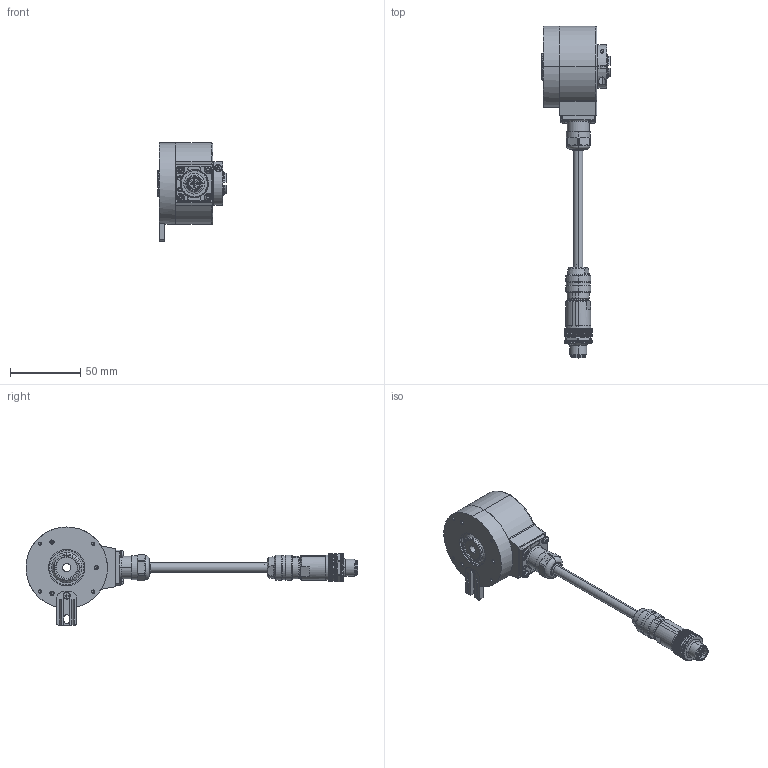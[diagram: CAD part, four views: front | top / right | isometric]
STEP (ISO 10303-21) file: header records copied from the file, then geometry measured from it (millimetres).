
FILE_DESCRIPTION (( 'STEP AP203' ), '1' );
FILE_NAME ('K58I.OXX.XXXXX.XC21506.6XR13.XXXX.step', '2025-12-08T11:57:43', ( '' ), ( '' ), 'SwSTEP 2.0', 'SolidWorks 2021', '' );
FILE_SCHEMA (( 'CONFIG_CONTROL_DESIGN' ));
Length unit declared in the file: millimetre
Products named in the file (1): K58I.OXX.XXXXX.XC21506.6XR13.XXXX
Bounding box: 48.5 x 236.49 x 69.9 mm (x, y, z)
Volume: 133053.1 mm3; surface area: 47627.7 mm2
Topology: 23 solids, 23 shells, 1669 faces, 4127 edges, 2531 vertices
Faces by surface type: plane 623, cylinder 595, cone 333, bspline 60, torus 42, sphere 16
Entity records: 52623 total; most frequent: CARTESIAN_POINT 13982, ORIENTED_EDGE 8202, DIRECTION 7994, EDGE_CURVE 4101, AXIS2_PLACEMENT_3D 3155, VERTEX_POINT 2529, EDGE_LOOP 1752, LINE 1684
